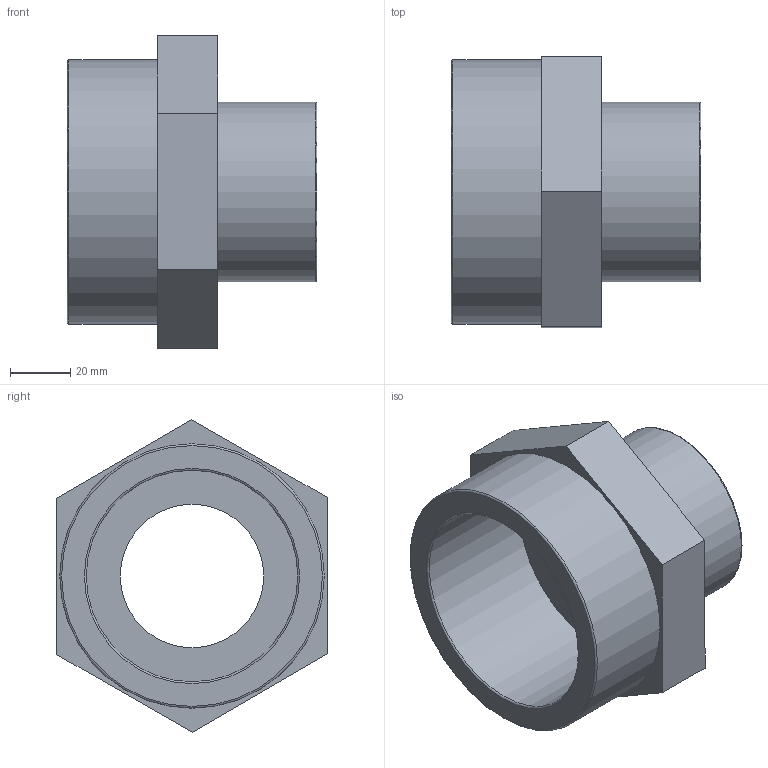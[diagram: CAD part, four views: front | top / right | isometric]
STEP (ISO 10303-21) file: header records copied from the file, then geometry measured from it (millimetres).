
FILE_DESCRIPTION(/* description */ ('PLASSON THR. REDUCING NIPPLE 3"-2" PVC'),/* implementation_level */ '2;1');
FILE_NAME(/* name */ 'C:\Dropbox\KIMPROJECTS-Inventor\99-16-3568-Processing\PVC Catalog 2017\051601\051601030020.ipt.stp',/* time_stamp */ '2017-12-07T16:01:04+02:00',/* author */ ('KIM'),/* organization */ (''),/* preprocessor_version */ 'ST-DEVELOPER v15.6',/* originating_system */ 'Autodesk Inventor 2015',/* authorisation */ '');
FILE_SCHEMA (('AUTOMOTIVE_DESIGN { 1 0 10303 214 3 1 1 }'));
Length unit declared in the file: millimetre
Products named in the file (1): 051601030020
Bounding box: 83 x 90.19 x 103.92 mm (x, y, z)
Volume: 175092.7 mm3; surface area: 46461.3 mm2
Topology: 1 solids, 1 shells, 19 faces, 38 edges, 24 vertices
Faces by surface type: plane 11, torus 4, cylinder 4
Full cylindrical faces by diameter (mm): 47.691 x1, 59.614 x1, 70.307 x1, 87.884 x1
Entity records: 480 total; most frequent: DIRECTION 82, CARTESIAN_POINT 74, ORIENTED_EDGE 60, EDGE_LOOP 32, AXIS2_PLACEMENT_3D 32, EDGE_CURVE 30, VERTEX_POINT 24, FACE_OUTER_BOUND 19
